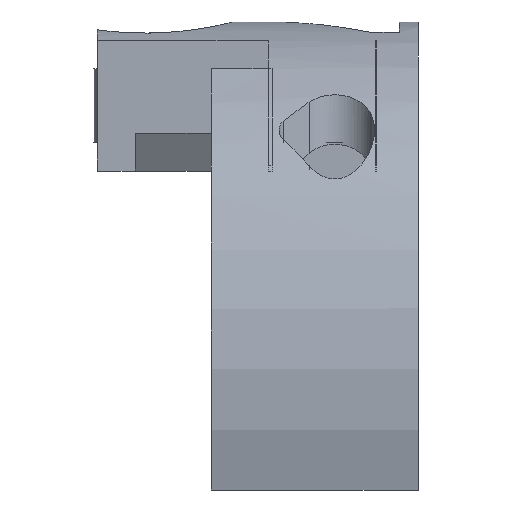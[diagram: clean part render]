
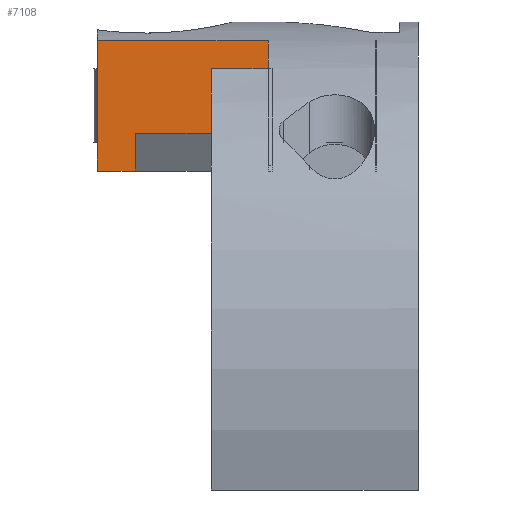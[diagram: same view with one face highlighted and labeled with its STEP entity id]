
A CAD part, front view. The second image highlights one B-rep face of the part: STEP entity #7108.
In plain terms, the highlighted planar face has unit normal (0, -1, 0).
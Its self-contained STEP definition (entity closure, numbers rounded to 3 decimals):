
#158 = PLANE('',#159);
#159 = AXIS2_PLACEMENT_3D('',#160,#161,#162);
#160 = CARTESIAN_POINT('',(185.,0.,0.));
#161 = DIRECTION('',(1.,0.,0.));
#162 = DIRECTION('',(-0.,0.,1.));
#301 = CYLINDRICAL_SURFACE('',#302,18.85);
#302 = AXIS2_PLACEMENT_3D('',#303,#304,#305);
#303 = CARTESIAN_POINT('',(194.,0.,0.));
#304 = DIRECTION('',(1.,0.,0.));
#305 = DIRECTION('',(-0.,0.,1.));
#2101 = PLANE('',#2102);
#2102 = AXIS2_PLACEMENT_3D('',#2103,#2104,#2105);
#2103 = CARTESIAN_POINT('',(185.,-6.,11.));
#2104 = DIRECTION('',(0.,0.,1.));
#2105 = DIRECTION('',(1.,0.,-0.));
#2164 = VERTEX_POINT('',#2165);
#2165 = CARTESIAN_POINT('',(185.,-6.,11.));
#2186 = EDGE_CURVE('',#2164,#2187,#2189,.T.);
#2187 = VERTEX_POINT('',#2188);
#2188 = CARTESIAN_POINT('',(187.,-6.,11.));
#2189 = SURFACE_CURVE('',#2190,(#2194,#2201),.PCURVE_S1.);
#2190 = LINE('',#2191,#2192);
#2191 = CARTESIAN_POINT('',(185.,-6.,11.));
#2192 = VECTOR('',#2193,1.);
#2193 = DIRECTION('',(1.,0.,-0.));
#2194 = PCURVE('',#2101,#2195);
#2195 = DEFINITIONAL_REPRESENTATION('',(#2196),#2200);
#2196 = LINE('',#2197,#2198);
#2197 = CARTESIAN_POINT('',(0.,0.));
#2198 = VECTOR('',#2199,1.);
#2199 = DIRECTION('',(1.,0.));
#2200 = ( GEOMETRIC_REPRESENTATION_CONTEXT(2) 
PARAMETRIC_REPRESENTATION_CONTEXT() REPRESENTATION_CONTEXT('2D SPACE',''
  ) );
#2201 = PCURVE('',#2202,#2207);
#2202 = PLANE('',#2203);
#2203 = AXIS2_PLACEMENT_3D('',#2204,#2205,#2206);
#2204 = CARTESIAN_POINT('',(185.,-6.,0.));
#2205 = DIRECTION('',(-0.,1.,0.));
#2206 = DIRECTION('',(0.,0.,1.));
#2207 = DEFINITIONAL_REPRESENTATION('',(#2208),#2212);
#2208 = LINE('',#2209,#2210);
#2209 = CARTESIAN_POINT('',(11.,0.));
#2210 = VECTOR('',#2211,1.);
#2211 = DIRECTION('',(0.,1.));
#2212 = ( GEOMETRIC_REPRESENTATION_CONTEXT(2) 
PARAMETRIC_REPRESENTATION_CONTEXT() REPRESENTATION_CONTEXT('2D SPACE',''
  ) );
#2230 = PLANE('',#2231);
#2231 = AXIS2_PLACEMENT_3D('',#2232,#2233,#2234);
#2232 = CARTESIAN_POINT('',(191.,-9.4,11.));
#2233 = DIRECTION('',(-0.648,-0.762,0.));
#2234 = DIRECTION('',(-0.762,0.648,0.));
#2750 = PLANE('',#2751);
#2751 = AXIS2_PLACEMENT_3D('',#2752,#2753,#2754);
#2752 = CARTESIAN_POINT('',(191.,-11.3,13.));
#2753 = DIRECTION('',(0.,0.,1.));
#2754 = DIRECTION('',(1.,0.,-0.));
#2787 = EDGE_CURVE('',#2788,#2790,#2792,.T.);
#2788 = VERTEX_POINT('',#2789);
#2789 = CARTESIAN_POINT('',(187.,-6.,13.));
#2790 = VERTEX_POINT('',#2791);
#2791 = CARTESIAN_POINT('',(201.139,-6.,13.));
#2792 = SURFACE_CURVE('',#2793,(#2797,#2804),.PCURVE_S1.);
#2793 = LINE('',#2794,#2795);
#2794 = CARTESIAN_POINT('',(187.,-6.,13.));
#2795 = VECTOR('',#2796,1.);
#2796 = DIRECTION('',(1.,0.,0.));
#2797 = PCURVE('',#2750,#2798);
#2798 = DEFINITIONAL_REPRESENTATION('',(#2799),#2803);
#2799 = LINE('',#2800,#2801);
#2800 = CARTESIAN_POINT('',(-4.,5.3));
#2801 = VECTOR('',#2802,1.);
#2802 = DIRECTION('',(1.,0.));
#2803 = ( GEOMETRIC_REPRESENTATION_CONTEXT(2) 
PARAMETRIC_REPRESENTATION_CONTEXT() REPRESENTATION_CONTEXT('2D SPACE',''
  ) );
#2804 = PCURVE('',#2202,#2805);
#2805 = DEFINITIONAL_REPRESENTATION('',(#2806),#2810);
#2806 = LINE('',#2807,#2808);
#2807 = CARTESIAN_POINT('',(13.,2.));
#2808 = VECTOR('',#2809,1.);
#2809 = DIRECTION('',(0.,1.));
#2810 = ( GEOMETRIC_REPRESENTATION_CONTEXT(2) 
PARAMETRIC_REPRESENTATION_CONTEXT() REPRESENTATION_CONTEXT('2D SPACE',''
  ) );
#3018 = PLANE('',#3019);
#3019 = AXIS2_PLACEMENT_3D('',#3020,#3021,#3022);
#3020 = CARTESIAN_POINT('',(194.,0.,11.9));
#3021 = DIRECTION('',(0.643,0.766,-0.));
#3022 = DIRECTION('',(0.766,-0.643,0.));
#3035 = VERTEX_POINT('',#3036);
#3036 = CARTESIAN_POINT('',(201.139,-6.,15.746));
#3051 = CYLINDRICAL_SURFACE('',#3052,16.85);
#3052 = AXIS2_PLACEMENT_3D('',#3053,#3054,#3055);
#3053 = CARTESIAN_POINT('',(193.9,0.,0.));
#3054 = DIRECTION('',(1.,0.,0.));
#3055 = DIRECTION('',(-0.,0.,1.));
#3066 = EDGE_CURVE('',#3035,#2790,#3067,.T.);
#3067 = SURFACE_CURVE('',#3068,(#3072,#3078),.PCURVE_S1.);
#3068 = LINE('',#3069,#3070);
#3069 = CARTESIAN_POINT('',(201.139,-6.,12.4));
#3070 = VECTOR('',#3071,1.);
#3071 = DIRECTION('',(-0.,0.,-1.));
#3072 = PCURVE('',#3018,#3073);
#3073 = DEFINITIONAL_REPRESENTATION('',(#3074),#3077);
#3074 = B_SPLINE_CURVE_WITH_KNOTS('',1,(#3075,#3076),.UNSPECIFIED.,.F.,
  .F.,(2,2),(-6.5,-0.5),.PIECEWISE_BEZIER_KNOTS.);
#3075 = CARTESIAN_POINT('',(9.325,-7.));
#3076 = CARTESIAN_POINT('',(9.325,-1.));
#3077 = ( GEOMETRIC_REPRESENTATION_CONTEXT(2) 
PARAMETRIC_REPRESENTATION_CONTEXT() REPRESENTATION_CONTEXT('2D SPACE',''
  ) );
#3078 = PCURVE('',#2202,#3079);
#3079 = DEFINITIONAL_REPRESENTATION('',(#3080),#3084);
#3080 = LINE('',#3081,#3082);
#3081 = CARTESIAN_POINT('',(12.4,16.139));
#3082 = VECTOR('',#3083,1.);
#3083 = DIRECTION('',(-1.,0.));
#3084 = ( GEOMETRIC_REPRESENTATION_CONTEXT(2) 
PARAMETRIC_REPRESENTATION_CONTEXT() REPRESENTATION_CONTEXT('2D SPACE',''
  ) );
#3845 = EDGE_CURVE('',#3846,#3035,#3848,.T.);
#3846 = VERTEX_POINT('',#3847);
#3847 = CARTESIAN_POINT('',(194.,-6.,15.746));
#3848 = SURFACE_CURVE('',#3849,(#3853,#3860),.PCURVE_S1.);
#3849 = LINE('',#3850,#3851);
#3850 = CARTESIAN_POINT('',(194.,-6.,15.746));
#3851 = VECTOR('',#3852,1.);
#3852 = DIRECTION('',(1.,0.,0.));
#3853 = PCURVE('',#3051,#3854);
#3854 = DEFINITIONAL_REPRESENTATION('',(#3855),#3859);
#3855 = LINE('',#3856,#3857);
#3856 = CARTESIAN_POINT('',(6.647,0.1));
#3857 = VECTOR('',#3858,1.);
#3858 = DIRECTION('',(0.,1.));
#3859 = ( GEOMETRIC_REPRESENTATION_CONTEXT(2) 
PARAMETRIC_REPRESENTATION_CONTEXT() REPRESENTATION_CONTEXT('2D SPACE',''
  ) );
#3860 = PCURVE('',#2202,#3861);
#3861 = DEFINITIONAL_REPRESENTATION('',(#3862),#3866);
#3862 = LINE('',#3863,#3864);
#3863 = CARTESIAN_POINT('',(15.746,9.));
#3864 = VECTOR('',#3865,1.);
#3865 = DIRECTION('',(0.,1.));
#3866 = ( GEOMETRIC_REPRESENTATION_CONTEXT(2) 
PARAMETRIC_REPRESENTATION_CONTEXT() REPRESENTATION_CONTEXT('2D SPACE',''
  ) );
#3884 = PLANE('',#3885);
#3885 = AXIS2_PLACEMENT_3D('',#3886,#3887,#3888);
#3886 = CARTESIAN_POINT('',(194.,0.,0.));
#3887 = DIRECTION('',(1.,0.,0.));
#3888 = DIRECTION('',(-0.,0.,1.));
#3972 = EDGE_CURVE('',#3973,#3846,#3975,.T.);
#3973 = VERTEX_POINT('',#3974);
#3974 = CARTESIAN_POINT('',(194.,-6.,17.87));
#3975 = SURFACE_CURVE('',#3976,(#3980,#3987),.PCURVE_S1.);
#3976 = LINE('',#3977,#3978);
#3977 = CARTESIAN_POINT('',(194.,-6.,17.87));
#3978 = VECTOR('',#3979,1.);
#3979 = DIRECTION('',(0.,0.,-1.));
#3980 = PCURVE('',#3884,#3981);
#3981 = DEFINITIONAL_REPRESENTATION('',(#3982),#3986);
#3982 = LINE('',#3983,#3984);
#3983 = CARTESIAN_POINT('',(17.87,6.));
#3984 = VECTOR('',#3985,1.);
#3985 = DIRECTION('',(-1.,0.));
#3986 = ( GEOMETRIC_REPRESENTATION_CONTEXT(2) 
PARAMETRIC_REPRESENTATION_CONTEXT() REPRESENTATION_CONTEXT('2D SPACE',''
  ) );
#3987 = PCURVE('',#2202,#3988);
#3988 = DEFINITIONAL_REPRESENTATION('',(#3989),#3993);
#3989 = LINE('',#3990,#3991);
#3990 = CARTESIAN_POINT('',(17.87,9.));
#3991 = VECTOR('',#3992,1.);
#3992 = DIRECTION('',(-1.,0.));
#3993 = ( GEOMETRIC_REPRESENTATION_CONTEXT(2) 
PARAMETRIC_REPRESENTATION_CONTEXT() REPRESENTATION_CONTEXT('2D SPACE',''
  ) );
#7087 = EDGE_CURVE('',#2187,#2788,#7088,.T.);
#7088 = SURFACE_CURVE('',#7089,(#7093,#7100),.PCURVE_S1.);
#7089 = LINE('',#7090,#7091);
#7090 = CARTESIAN_POINT('',(187.,-6.,11.));
#7091 = VECTOR('',#7092,1.);
#7092 = DIRECTION('',(0.,0.,1.));
#7093 = PCURVE('',#2230,#7094);
#7094 = DEFINITIONAL_REPRESENTATION('',(#7095),#7099);
#7095 = LINE('',#7096,#7097);
#7096 = CARTESIAN_POINT('',(5.25,0.));
#7097 = VECTOR('',#7098,1.);
#7098 = DIRECTION('',(0.,-1.));
#7099 = ( GEOMETRIC_REPRESENTATION_CONTEXT(2) 
PARAMETRIC_REPRESENTATION_CONTEXT() REPRESENTATION_CONTEXT('2D SPACE',''
  ) );
#7100 = PCURVE('',#2202,#7101);
#7101 = DEFINITIONAL_REPRESENTATION('',(#7102),#7106);
#7102 = LINE('',#7103,#7104);
#7103 = CARTESIAN_POINT('',(11.,2.));
#7104 = VECTOR('',#7105,1.);
#7105 = DIRECTION('',(1.,0.));
#7106 = ( GEOMETRIC_REPRESENTATION_CONTEXT(2) 
PARAMETRIC_REPRESENTATION_CONTEXT() REPRESENTATION_CONTEXT('2D SPACE',''
  ) );
#7108 = ADVANCED_FACE('',(#7109),#2202,.F.);
#7109 = FACE_BOUND('',#7110,.F.);
#7110 = EDGE_LOOP('',(#7111,#7112,#7113,#7114,#7115,#7116,#7139,#7159));
#7111 = ORIENTED_EDGE('',*,*,#3845,.T.);
#7112 = ORIENTED_EDGE('',*,*,#3066,.T.);
#7113 = ORIENTED_EDGE('',*,*,#2787,.F.);
#7114 = ORIENTED_EDGE('',*,*,#7087,.F.);
#7115 = ORIENTED_EDGE('',*,*,#2186,.F.);
#7116 = ORIENTED_EDGE('',*,*,#7117,.T.);
#7117 = EDGE_CURVE('',#2164,#7118,#7120,.T.);
#7118 = VERTEX_POINT('',#7119);
#7119 = CARTESIAN_POINT('',(185.,-6.,17.87));
#7120 = SURFACE_CURVE('',#7121,(#7125,#7132),.PCURVE_S1.);
#7121 = LINE('',#7122,#7123);
#7122 = CARTESIAN_POINT('',(185.,-6.,11.));
#7123 = VECTOR('',#7124,1.);
#7124 = DIRECTION('',(0.,0.,1.));
#7125 = PCURVE('',#2202,#7126);
#7126 = DEFINITIONAL_REPRESENTATION('',(#7127),#7131);
#7127 = LINE('',#7128,#7129);
#7128 = CARTESIAN_POINT('',(11.,0.));
#7129 = VECTOR('',#7130,1.);
#7130 = DIRECTION('',(1.,0.));
#7131 = ( GEOMETRIC_REPRESENTATION_CONTEXT(2) 
PARAMETRIC_REPRESENTATION_CONTEXT() REPRESENTATION_CONTEXT('2D SPACE',''
  ) );
#7132 = PCURVE('',#158,#7133);
#7133 = DEFINITIONAL_REPRESENTATION('',(#7134),#7138);
#7134 = LINE('',#7135,#7136);
#7135 = CARTESIAN_POINT('',(11.,6.));
#7136 = VECTOR('',#7137,1.);
#7137 = DIRECTION('',(1.,0.));
#7138 = ( GEOMETRIC_REPRESENTATION_CONTEXT(2) 
PARAMETRIC_REPRESENTATION_CONTEXT() REPRESENTATION_CONTEXT('2D SPACE',''
  ) );
#7139 = ORIENTED_EDGE('',*,*,#7140,.T.);
#7140 = EDGE_CURVE('',#7118,#3973,#7141,.T.);
#7141 = SURFACE_CURVE('',#7142,(#7146,#7153),.PCURVE_S1.);
#7142 = LINE('',#7143,#7144);
#7143 = CARTESIAN_POINT('',(185.,-6.,17.87));
#7144 = VECTOR('',#7145,1.);
#7145 = DIRECTION('',(1.,0.,0.));
#7146 = PCURVE('',#2202,#7147);
#7147 = DEFINITIONAL_REPRESENTATION('',(#7148),#7152);
#7148 = LINE('',#7149,#7150);
#7149 = CARTESIAN_POINT('',(17.87,0.));
#7150 = VECTOR('',#7151,1.);
#7151 = DIRECTION('',(0.,1.));
#7152 = ( GEOMETRIC_REPRESENTATION_CONTEXT(2) 
PARAMETRIC_REPRESENTATION_CONTEXT() REPRESENTATION_CONTEXT('2D SPACE',''
  ) );
#7153 = PCURVE('',#301,#7154);
#7154 = DEFINITIONAL_REPRESENTATION('',(#7155),#7158);
#7155 = B_SPLINE_CURVE_WITH_KNOTS('',1,(#7156,#7157),.UNSPECIFIED.,.F.,
  .F.,(2,2),(0.,9.),.PIECEWISE_BEZIER_KNOTS.);
#7156 = CARTESIAN_POINT('',(0.324,-9.));
#7157 = CARTESIAN_POINT('',(0.324,0.));
#7158 = ( GEOMETRIC_REPRESENTATION_CONTEXT(2) 
PARAMETRIC_REPRESENTATION_CONTEXT() REPRESENTATION_CONTEXT('2D SPACE',''
  ) );
#7159 = ORIENTED_EDGE('',*,*,#3972,.T.);
